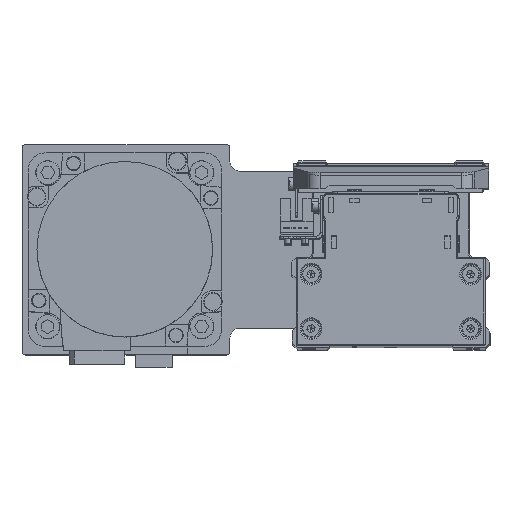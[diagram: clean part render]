
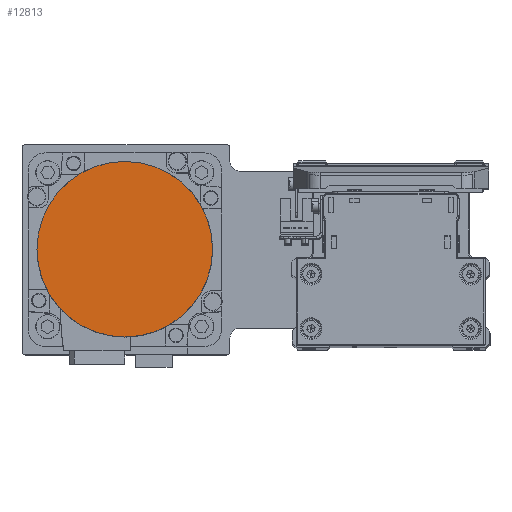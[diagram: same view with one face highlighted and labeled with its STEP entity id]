
A CAD part, top view. The second image highlights one B-rep face of the part: STEP entity #12813.
In plain terms, the highlighted planar face has unit normal (0, 0, 1) as drawn and (0, 0, -1) by its records, which use the part's own axes.
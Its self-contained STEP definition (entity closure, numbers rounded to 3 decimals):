
#12 = FACE_OUTER_BOUND ( 'NONE', #17167, .T. ) ;
#444 = CARTESIAN_POINT ( 'NONE',  ( 0., 36.3, -122.2 ) ) ;
#2850 = DIRECTION ( 'NONE',  ( 0., 0., 1. ) ) ;
#5930 = CARTESIAN_POINT ( 'NONE',  ( 0., 0., -122.2 ) ) ;
#6400 = EDGE_CURVE ( 'NONE', #27441, #20239, #27323, .T. ) ;
#7974 = AXIS2_PLACEMENT_3D ( 'NONE', #24235, #36343, #9134 ) ;
#9134 = DIRECTION ( 'NONE',  ( 1., 0., 0. ) ) ;
#10194 = AXIS2_PLACEMENT_3D ( 'NONE', #30050, #2850, #14931 ) ;
#11157 = ORIENTED_EDGE ( 'NONE', *, *, #22880, .F. ) ;
#12105 = PLANE ( 'NONE',  #7974 ) ;
#12813 = ADVANCED_FACE ( 'NONE', ( #12 ), #12105, .F. ) ;
#14931 = DIRECTION ( 'NONE',  ( 0., 1., 0. ) ) ;
#17167 = EDGE_LOOP ( 'NONE', ( #23644, #11157 ) ) ;
#18008 = DIRECTION ( 'NONE',  ( 0., 0., 1. ) ) ;
#20239 = VERTEX_POINT ( 'NONE', #38309 ) ;
#21783 = AXIS2_PLACEMENT_3D ( 'NONE', #5930, #18008, #30134 ) ;
#22880 = EDGE_CURVE ( 'NONE', #20239, #27441, #38902, .T. ) ;
#23644 = ORIENTED_EDGE ( 'NONE', *, *, #6400, .F. ) ;
#24235 = CARTESIAN_POINT ( 'NONE',  ( 0., 0., -122.2 ) ) ;
#27323 = CIRCLE ( 'NONE', #10194, 36.3 ) ;
#27441 = VERTEX_POINT ( 'NONE', #444 ) ;
#30050 = CARTESIAN_POINT ( 'NONE',  ( 0., 0., -122.2 ) ) ;
#30134 = DIRECTION ( 'NONE',  ( 0., -1., 0. ) ) ;
#36343 = DIRECTION ( 'NONE',  ( 0., 0., 1. ) ) ;
#38309 = CARTESIAN_POINT ( 'NONE',  ( 0., -36.3, -122.2 ) ) ;
#38902 = CIRCLE ( 'NONE', #21783, 36.3 ) ;
